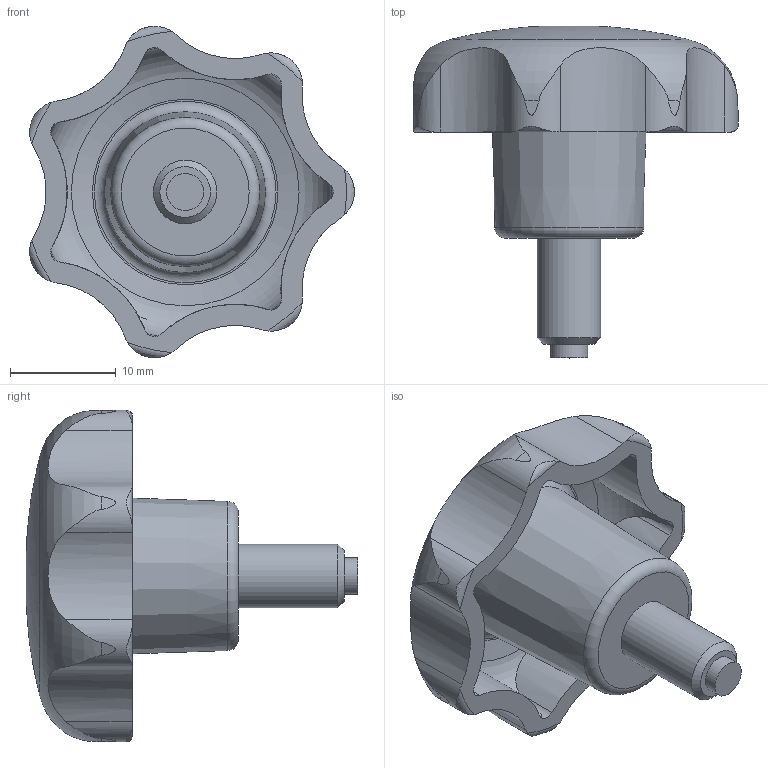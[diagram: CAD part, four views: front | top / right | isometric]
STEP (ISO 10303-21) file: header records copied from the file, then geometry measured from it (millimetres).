
FILE_DESCRIPTION( ( 'STEP AP203' ), '1' );
FILE_NAME( 'C:/Temp/Ganter_Step_05_03_2020/data/2_2/gn6336_10/Star knob GN 6336.10-32-M6-10-KU.stp', '2020-03-05T12:04:20', ( 'License CC BY-ND 4.0' ), ( 'CADENAS' ), ' ', 'PARTsolutions', ' ' );
FILE_SCHEMA( ( 'CONFIG_CONTROL_DESIGN' ) );
Length unit declared in the file: millimetre
Products named in the file (1): _Star knob GN 6336.10-32-M6-10-KU
Bounding box: 30.63 x 31.32 x 31.27 mm (x, y, z)
Volume: 5681.3 mm3; surface area: 3495 mm2
Topology: 1 solids, 1 shells, 65 faces, 189 edges, 128 vertices
Faces by surface type: cylinder 30, cone 17, torus 13, plane 4, bspline 1
Full cylindrical faces by diameter (mm): 3.5 x1, 6 x1
Entity records: 3035 total; most frequent: CARTESIAN_POINT 1421, ORIENTED_EDGE 348, DIRECTION 296, EDGE_CURVE 174, AXIS2_PLACEMENT_3D 134, VERTEX_POINT 125, EDGE_LOOP 78, B_SPLINE_CURVE_WITH_KNOTS 77
